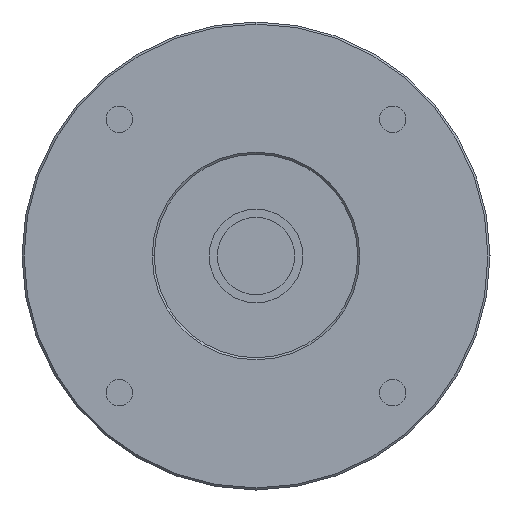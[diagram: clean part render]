
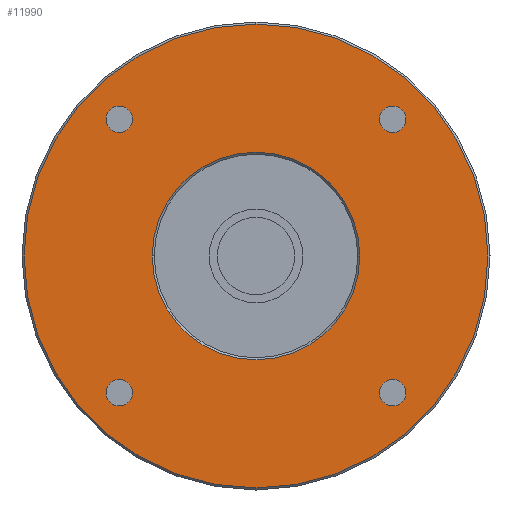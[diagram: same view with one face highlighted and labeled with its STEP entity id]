
A CAD part, left-side view. The second image highlights one B-rep face of the part: STEP entity #11990.
In plain terms, the highlighted planar face has unit normal (-1, 0, 0) as drawn and (0, 0, -1) by its records, which use the part's own axes.
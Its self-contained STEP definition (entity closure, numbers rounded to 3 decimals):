
#8800=CARTESIAN_POINT('',(36.838,33.588,-47.4));
#8810=VERTEX_POINT('',#8800);
#8840=CARTESIAN_POINT('',(33.588,33.588,-47.4));
#8850=DIRECTION('',(0.,0.,-1.));
#8860=DIRECTION('',(1.,0.,0.));
#8870=AXIS2_PLACEMENT_3D('',#8840,#8850,#8860);
#8880=CIRCLE('',#8870,3.25);
#8890=CARTESIAN_POINT('',(30.338,33.588,-47.4));
#8900=VERTEX_POINT('',#8890);
#8910=EDGE_CURVE('',#8900,#8810,#8880,.T.);
#9220=CARTESIAN_POINT('',(-30.338,33.588,-47.4));
#9230=VERTEX_POINT('',#9220);
#9260=CARTESIAN_POINT('',(-33.588,33.588,-47.4));
#9270=DIRECTION('',(0.,0.,-1.));
#9280=DIRECTION('',(1.,0.,0.));
#9290=AXIS2_PLACEMENT_3D('',#9260,#9270,#9280);
#9300=CIRCLE('',#9290,3.25);
#9310=CARTESIAN_POINT('',(-36.838,33.588,-47.4));
#9320=VERTEX_POINT('',#9310);
#9330=EDGE_CURVE('',#9320,#9230,#9300,.T.);
#11060=CARTESIAN_POINT('',(0.,57.,-47.4));
#11070=VERTEX_POINT('',#11060);
#11100=CARTESIAN_POINT('',(0.,0.,
-47.4));
#11110=DIRECTION('',(0.,0.,-1.));
#11120=DIRECTION('',(1.,0.,0.));
#11130=AXIS2_PLACEMENT_3D('',#11100,#11110,#11120);
#11140=CIRCLE('',#11130,57.);
#11150=CARTESIAN_POINT('',(57.,0.,-47.4));
#11160=VERTEX_POINT('',#11150);
#11170=EDGE_CURVE('',#11070,#11160,#11140,.T.);
#11190=CARTESIAN_POINT('',(0.,-57.,-47.4));
#11200=VERTEX_POINT('',#11190);
#11210=EDGE_CURVE('',#11160,#11200,#11140,.T.);
#11330=CARTESIAN_POINT('',(0.,0.,
-47.4));
#11340=DIRECTION('',(0.,0.,-1.));
#11350=DIRECTION('',(1.,0.,0.));
#11360=AXIS2_PLACEMENT_3D('',#11330,#11340,#11350);
#11370=PLANE('',#11360);
#11380=EDGE_CURVE('',#11200,#11070,#11140,.T.);
#11390=ORIENTED_EDGE('',*,*,#11380,.T.);
#11400=ORIENTED_EDGE('',*,*,#11210,.T.);
#11410=ORIENTED_EDGE('',*,*,#11170,.T.);
#11420=EDGE_LOOP('',(#11410,#11400,#11390));
#11430=FACE_OUTER_BOUND('',#11420,.T.);
#11440=CARTESIAN_POINT('',(0.,0.,
-47.4));
#11450=DIRECTION('',(0.,0.,-1.));
#11460=DIRECTION('',(1.,0.,0.));
#11470=AXIS2_PLACEMENT_3D('',#11440,#11450,#11460);
#11480=CIRCLE('',#11470,25.5);
#11490=CARTESIAN_POINT('',(25.5,0.,-47.4));
#11500=VERTEX_POINT('',#11490);
#11510=CARTESIAN_POINT('',(-25.5,0.,-47.4));
#11520=VERTEX_POINT('',#11510);
#11530=EDGE_CURVE('',#11500,#11520,#11480,.T.);
#11540=ORIENTED_EDGE('',*,*,#11530,.F.);
#11550=EDGE_CURVE('',#11520,#11500,#11480,.T.);
#11560=ORIENTED_EDGE('',*,*,#11550,.F.);
#11570=EDGE_LOOP('',(#11560,#11540));
#11580=FACE_BOUND('',#11570,.T.);
#11590=CARTESIAN_POINT('',(33.588,-33.588,-47.4));
#11600=DIRECTION('',(0.,0.,-1.));
#11610=DIRECTION('',(1.,0.,0.));
#11620=AXIS2_PLACEMENT_3D('',#11590,#11600,#11610);
#11630=CIRCLE('',#11620,3.25);
#11640=CARTESIAN_POINT('',(36.838,-33.588,-47.4));
#11650=VERTEX_POINT('',#11640);
#11660=CARTESIAN_POINT('',(30.338,-33.588,-47.4));
#11670=VERTEX_POINT('',#11660);
#11680=EDGE_CURVE('',#11650,#11670,#11630,.T.);
#11690=ORIENTED_EDGE('',*,*,#11680,.F.);
#11700=EDGE_CURVE('',#11670,#11650,#11630,.T.);
#11710=ORIENTED_EDGE('',*,*,#11700,.F.);
#11720=EDGE_LOOP('',(#11710,#11690));
#11730=FACE_BOUND('',#11720,.T.);
#11740=EDGE_CURVE('',#8810,#8900,#8880,.T.);
#11750=ORIENTED_EDGE('',*,*,#11740,.F.);
#11760=ORIENTED_EDGE('',*,*,#8910,.F.);
#11770=EDGE_LOOP('',(#11760,#11750));
#11780=FACE_BOUND('',#11770,.T.);
#11790=EDGE_CURVE('',#9230,#9320,#9300,.T.);
#11800=ORIENTED_EDGE('',*,*,#11790,.F.);
#11810=ORIENTED_EDGE('',*,*,#9330,.F.);
#11820=EDGE_LOOP('',(#11810,#11800));
#11830=FACE_BOUND('',#11820,.T.);
#11840=CARTESIAN_POINT('',(-33.588,-33.588,-47.4));
#11850=DIRECTION('',(0.,0.,-1.));
#11860=DIRECTION('',(1.,0.,0.));
#11870=AXIS2_PLACEMENT_3D('',#11840,#11850,#11860);
#11880=CIRCLE('',#11870,3.25);
#11890=CARTESIAN_POINT('',(-30.338,-33.588,-47.4));
#11900=VERTEX_POINT('',#11890);
#11910=CARTESIAN_POINT('',(-36.838,-33.588,-47.4));
#11920=VERTEX_POINT('',#11910);
#11930=EDGE_CURVE('',#11900,#11920,#11880,.T.);
#11940=ORIENTED_EDGE('',*,*,#11930,.F.);
#11950=EDGE_CURVE('',#11920,#11900,#11880,.T.);
#11960=ORIENTED_EDGE('',*,*,#11950,.F.);
#11970=EDGE_LOOP('',(#11960,#11940));
#11980=FACE_BOUND('',#11970,.T.);
#11990=ADVANCED_FACE('',(#11430,#11580,#11730,#11780,#11830,#11980),
#11370,.T.);
